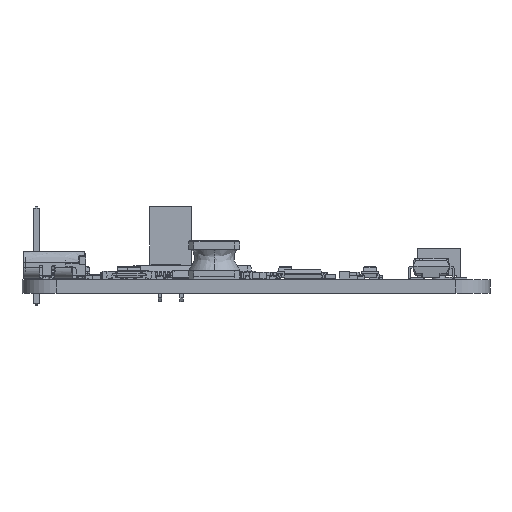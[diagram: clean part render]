
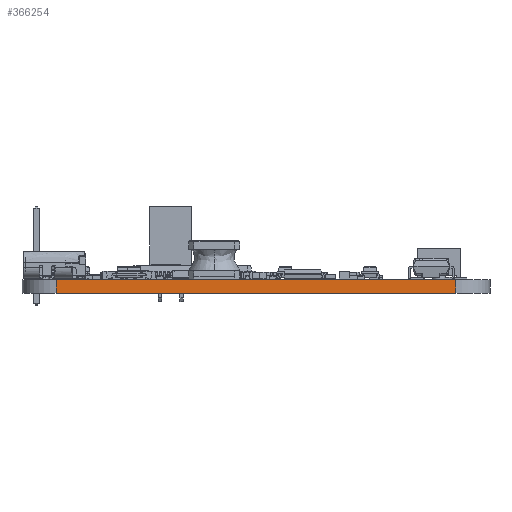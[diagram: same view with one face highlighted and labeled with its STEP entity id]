
A CAD part, front view. The second image highlights one B-rep face of the part: STEP entity #366254.
In plain terms, the highlighted planar face has unit normal (0, -1, 0).
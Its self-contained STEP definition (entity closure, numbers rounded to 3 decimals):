
#366071 = CYLINDRICAL_SURFACE('',#366072,4.);
#366072 = AXIS2_PLACEMENT_3D('',#366073,#366074,#366075);
#366073 = CARTESIAN_POINT('',(4.,4.,0.));
#366074 = DIRECTION('',(-0.,-0.,-1.));
#366075 = DIRECTION('',(1.,0.,-0.));
#366096 = VERTEX_POINT('',#366097);
#366097 = CARTESIAN_POINT('',(4.,0.,1.61));
#366112 = PLANE('',#366113);
#366113 = AXIS2_PLACEMENT_3D('',#366114,#366115,#366116);
#366114 = CARTESIAN_POINT('',(27.5,42.5,1.61));
#366115 = DIRECTION('',(0.,0.,1.));
#366116 = DIRECTION('',(1.,0.,-0.));
#366124 = EDGE_CURVE('',#366125,#366096,#366127,.T.);
#366125 = VERTEX_POINT('',#366126);
#366126 = CARTESIAN_POINT('',(4.,-0.,0.));
#366127 = SURFACE_CURVE('',#366128,(#366132,#366139),.PCURVE_S1.);
#366128 = LINE('',#366129,#366130);
#366129 = CARTESIAN_POINT('',(4.,-0.,0.));
#366130 = VECTOR('',#366131,1.);
#366131 = DIRECTION('',(0.,0.,1.));
#366132 = PCURVE('',#366071,#366133);
#366133 = DEFINITIONAL_REPRESENTATION('',(#366134),#366138);
#366134 = LINE('',#366135,#366136);
#366135 = CARTESIAN_POINT('',(-4.712,0.));
#366136 = VECTOR('',#366137,1.);
#366137 = DIRECTION('',(-0.,-1.));
#366138 = ( GEOMETRIC_REPRESENTATION_CONTEXT(2) 
PARAMETRIC_REPRESENTATION_CONTEXT() REPRESENTATION_CONTEXT('2D SPACE',''
  ) );
#366139 = PCURVE('',#366140,#366145);
#366140 = PLANE('',#366141);
#366141 = AXIS2_PLACEMENT_3D('',#366142,#366143,#366144);
#366142 = CARTESIAN_POINT('',(51.,0.,0.));
#366143 = DIRECTION('',(0.,-1.,0.));
#366144 = DIRECTION('',(-1.,0.,0.));
#366145 = DEFINITIONAL_REPRESENTATION('',(#366146),#366150);
#366146 = LINE('',#366147,#366148);
#366147 = CARTESIAN_POINT('',(47.,0.));
#366148 = VECTOR('',#366149,1.);
#366149 = DIRECTION('',(0.,-1.));
#366150 = ( GEOMETRIC_REPRESENTATION_CONTEXT(2) 
PARAMETRIC_REPRESENTATION_CONTEXT() REPRESENTATION_CONTEXT('2D SPACE',''
  ) );
#366167 = PLANE('',#366168);
#366168 = AXIS2_PLACEMENT_3D('',#366169,#366170,#366171);
#366169 = CARTESIAN_POINT('',(27.5,42.5,0.));
#366170 = DIRECTION('',(0.,0.,1.));
#366171 = DIRECTION('',(1.,0.,-0.));
#366254 = ADVANCED_FACE('',(#366255),#366140,.T.);
#366255 = FACE_BOUND('',#366256,.T.);
#366256 = EDGE_LOOP('',(#366257,#366287,#366308,#366309));
#366257 = ORIENTED_EDGE('',*,*,#366258,.T.);
#366258 = EDGE_CURVE('',#366259,#366261,#366263,.T.);
#366259 = VERTEX_POINT('',#366260);
#366260 = CARTESIAN_POINT('',(51.,0.,0.));
#366261 = VERTEX_POINT('',#366262);
#366262 = CARTESIAN_POINT('',(51.,0.,1.61));
#366263 = SURFACE_CURVE('',#366264,(#366268,#366275),.PCURVE_S1.);
#366264 = LINE('',#366265,#366266);
#366265 = CARTESIAN_POINT('',(51.,0.,0.));
#366266 = VECTOR('',#366267,1.);
#366267 = DIRECTION('',(0.,0.,1.));
#366268 = PCURVE('',#366140,#366269);
#366269 = DEFINITIONAL_REPRESENTATION('',(#366270),#366274);
#366270 = LINE('',#366271,#366272);
#366271 = CARTESIAN_POINT('',(0.,-0.));
#366272 = VECTOR('',#366273,1.);
#366273 = DIRECTION('',(0.,-1.));
#366274 = ( GEOMETRIC_REPRESENTATION_CONTEXT(2) 
PARAMETRIC_REPRESENTATION_CONTEXT() REPRESENTATION_CONTEXT('2D SPACE',''
  ) );
#366275 = PCURVE('',#366276,#366281);
#366276 = CYLINDRICAL_SURFACE('',#366277,4.);
#366277 = AXIS2_PLACEMENT_3D('',#366278,#366279,#366280);
#366278 = CARTESIAN_POINT('',(51.,4.,0.));
#366279 = DIRECTION('',(-0.,-0.,-1.));
#366280 = DIRECTION('',(1.,0.,-0.));
#366281 = DEFINITIONAL_REPRESENTATION('',(#366282),#366286);
#366282 = LINE('',#366283,#366284);
#366283 = CARTESIAN_POINT('',(-4.712,0.));
#366284 = VECTOR('',#366285,1.);
#366285 = DIRECTION('',(-0.,-1.));
#366286 = ( GEOMETRIC_REPRESENTATION_CONTEXT(2) 
PARAMETRIC_REPRESENTATION_CONTEXT() REPRESENTATION_CONTEXT('2D SPACE',''
  ) );
#366287 = ORIENTED_EDGE('',*,*,#366288,.T.);
#366288 = EDGE_CURVE('',#366261,#366096,#366289,.T.);
#366289 = SURFACE_CURVE('',#366290,(#366294,#366301),.PCURVE_S1.);
#366290 = LINE('',#366291,#366292);
#366291 = CARTESIAN_POINT('',(51.,0.,1.61));
#366292 = VECTOR('',#366293,1.);
#366293 = DIRECTION('',(-1.,-0.,0.));
#366294 = PCURVE('',#366140,#366295);
#366295 = DEFINITIONAL_REPRESENTATION('',(#366296),#366300);
#366296 = LINE('',#366297,#366298);
#366297 = CARTESIAN_POINT('',(0.,-1.61));
#366298 = VECTOR('',#366299,1.);
#366299 = DIRECTION('',(1.,0.));
#366300 = ( GEOMETRIC_REPRESENTATION_CONTEXT(2) 
PARAMETRIC_REPRESENTATION_CONTEXT() REPRESENTATION_CONTEXT('2D SPACE',''
  ) );
#366301 = PCURVE('',#366112,#366302);
#366302 = DEFINITIONAL_REPRESENTATION('',(#366303),#366307);
#366303 = LINE('',#366304,#366305);
#366304 = CARTESIAN_POINT('',(23.5,-42.5));
#366305 = VECTOR('',#366306,1.);
#366306 = DIRECTION('',(-1.,0.));
#366307 = ( GEOMETRIC_REPRESENTATION_CONTEXT(2) 
PARAMETRIC_REPRESENTATION_CONTEXT() REPRESENTATION_CONTEXT('2D SPACE',''
  ) );
#366308 = ORIENTED_EDGE('',*,*,#366124,.F.);
#366309 = ORIENTED_EDGE('',*,*,#366310,.F.);
#366310 = EDGE_CURVE('',#366259,#366125,#366311,.T.);
#366311 = SURFACE_CURVE('',#366312,(#366316,#366323),.PCURVE_S1.);
#366312 = LINE('',#366313,#366314);
#366313 = CARTESIAN_POINT('',(51.,0.,0.));
#366314 = VECTOR('',#366315,1.);
#366315 = DIRECTION('',(-1.,-0.,0.));
#366316 = PCURVE('',#366140,#366317);
#366317 = DEFINITIONAL_REPRESENTATION('',(#366318),#366322);
#366318 = LINE('',#366319,#366320);
#366319 = CARTESIAN_POINT('',(0.,-0.));
#366320 = VECTOR('',#366321,1.);
#366321 = DIRECTION('',(1.,0.));
#366322 = ( GEOMETRIC_REPRESENTATION_CONTEXT(2) 
PARAMETRIC_REPRESENTATION_CONTEXT() REPRESENTATION_CONTEXT('2D SPACE',''
  ) );
#366323 = PCURVE('',#366167,#366324);
#366324 = DEFINITIONAL_REPRESENTATION('',(#366325),#366329);
#366325 = LINE('',#366326,#366327);
#366326 = CARTESIAN_POINT('',(23.5,-42.5));
#366327 = VECTOR('',#366328,1.);
#366328 = DIRECTION('',(-1.,0.));
#366329 = ( GEOMETRIC_REPRESENTATION_CONTEXT(2) 
PARAMETRIC_REPRESENTATION_CONTEXT() REPRESENTATION_CONTEXT('2D SPACE',''
  ) );
